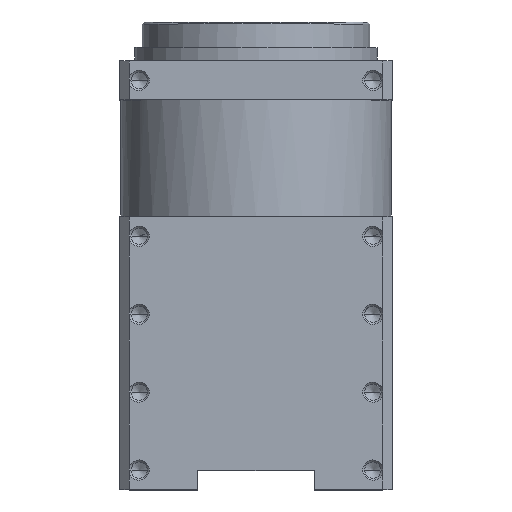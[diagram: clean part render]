
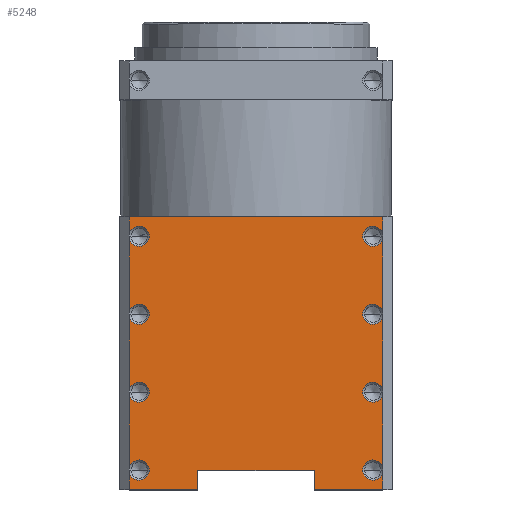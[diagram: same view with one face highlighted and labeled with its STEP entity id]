
A CAD part, top view. The second image highlights one B-rep face of the part: STEP entity #5248.
In plain terms, the highlighted planar face has unit normal (0, 0, 1).
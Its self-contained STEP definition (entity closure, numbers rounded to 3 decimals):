
#719=DIRECTION('',(1.,0.,0.));
#720=VECTOR('',#719,18.);
#721=CARTESIAN_POINT('',(-9.,-63.,21.));
#722=LINE('',#721,#720);
#723=DIRECTION('',(0.,1.,0.));
#724=VECTOR('',#723,3.);
#725=CARTESIAN_POINT('',(-9.,-66.,21.));
#726=LINE('',#725,#724);
#727=DIRECTION('',(0.,-1.,0.));
#728=VECTOR('',#727,2.609);
#729=CARTESIAN_POINT('',(-19.5,-63.391,21.));
#730=LINE('',#729,#728);
#731=CARTESIAN_POINT('',(-18.,-63.,21.));
#732=DIRECTION('',(0.,0.,1.));
#733=DIRECTION('',(-0.968,-0.252,0.));
#734=AXIS2_PLACEMENT_3D('',#731,#732,#733);
#736=CARTESIAN_POINT('',(-18.,-63.,21.));
#737=DIRECTION('',(0.,0.,1.));
#738=DIRECTION('',(1.,0.,0.));
#739=AXIS2_PLACEMENT_3D('',#736,#737,#738);
#741=DIRECTION('',(0.,-1.,0.));
#742=VECTOR('',#741,11.219);
#743=CARTESIAN_POINT('',(-19.5,-51.391,21.));
#744=LINE('',#743,#742);
#745=CARTESIAN_POINT('',(-18.,-51.,21.));
#746=DIRECTION('',(0.,0.,1.));
#747=DIRECTION('',(-0.968,-0.252,0.));
#748=AXIS2_PLACEMENT_3D('',#745,#746,#747);
#750=CARTESIAN_POINT('',(-18.,-51.,21.));
#751=DIRECTION('',(0.,0.,1.));
#752=DIRECTION('',(1.,0.,0.));
#753=AXIS2_PLACEMENT_3D('',#750,#751,#752);
#755=DIRECTION('',(0.,-1.,0.));
#756=VECTOR('',#755,11.219);
#757=CARTESIAN_POINT('',(-19.5,-39.391,21.));
#758=LINE('',#757,#756);
#759=CARTESIAN_POINT('',(-18.,-39.,21.));
#760=DIRECTION('',(0.,0.,1.));
#761=DIRECTION('',(-0.968,-0.252,0.));
#762=AXIS2_PLACEMENT_3D('',#759,#760,#761);
#764=CARTESIAN_POINT('',(-18.,-39.,21.));
#765=DIRECTION('',(0.,0.,1.));
#766=DIRECTION('',(1.,0.,0.));
#767=AXIS2_PLACEMENT_3D('',#764,#765,#766);
#769=DIRECTION('',(0.,-1.,0.));
#770=VECTOR('',#769,11.219);
#771=CARTESIAN_POINT('',(-19.5,-27.391,21.));
#772=LINE('',#771,#770);
#773=CARTESIAN_POINT('',(-18.,-27.,21.));
#774=DIRECTION('',(0.,0.,1.));
#775=DIRECTION('',(-0.968,-0.252,0.));
#776=AXIS2_PLACEMENT_3D('',#773,#774,#775);
#778=CARTESIAN_POINT('',(-18.,-27.,21.));
#779=DIRECTION('',(0.,0.,1.));
#780=DIRECTION('',(1.,0.,0.));
#781=AXIS2_PLACEMENT_3D('',#778,#779,#780);
#783=DIRECTION('',(0.,-1.,0.));
#784=VECTOR('',#783,2.609);
#785=CARTESIAN_POINT('',(-19.5,-24.,21.));
#786=LINE('',#785,#784);
#787=DIRECTION('',(1.,0.,0.));
#788=VECTOR('',#787,39.);
#789=CARTESIAN_POINT('',(-19.5,-24.,21.));
#790=LINE('',#789,#788);
#791=DIRECTION('',(0.,-1.,0.));
#792=VECTOR('',#791,2.609);
#793=CARTESIAN_POINT('',(19.5,-24.,21.));
#794=LINE('',#793,#792);
#795=CARTESIAN_POINT('',(18.,-27.,21.));
#796=DIRECTION('',(0.,0.,1.));
#797=DIRECTION('',(0.968,0.252,0.));
#798=AXIS2_PLACEMENT_3D('',#795,#796,#797);
#800=CARTESIAN_POINT('',(18.,-27.,21.));
#801=DIRECTION('',(0.,0.,1.));
#802=DIRECTION('',(-1.,0.,0.));
#803=AXIS2_PLACEMENT_3D('',#800,#801,#802);
#805=DIRECTION('',(0.,-1.,0.));
#806=VECTOR('',#805,11.219);
#807=CARTESIAN_POINT('',(19.5,-27.391,21.));
#808=LINE('',#807,#806);
#809=CARTESIAN_POINT('',(18.,-39.,21.));
#810=DIRECTION('',(0.,0.,1.));
#811=DIRECTION('',(0.968,0.252,0.));
#812=AXIS2_PLACEMENT_3D('',#809,#810,#811);
#814=CARTESIAN_POINT('',(18.,-39.,21.));
#815=DIRECTION('',(0.,0.,1.));
#816=DIRECTION('',(-1.,0.,0.));
#817=AXIS2_PLACEMENT_3D('',#814,#815,#816);
#819=DIRECTION('',(0.,-1.,0.));
#820=VECTOR('',#819,11.219);
#821=CARTESIAN_POINT('',(19.5,-39.391,21.));
#822=LINE('',#821,#820);
#823=CARTESIAN_POINT('',(18.,-51.,21.));
#824=DIRECTION('',(0.,0.,1.));
#825=DIRECTION('',(0.968,0.252,0.));
#826=AXIS2_PLACEMENT_3D('',#823,#824,#825);
#828=CARTESIAN_POINT('',(18.,-51.,21.));
#829=DIRECTION('',(0.,0.,1.));
#830=DIRECTION('',(-1.,0.,0.));
#831=AXIS2_PLACEMENT_3D('',#828,#829,#830);
#833=DIRECTION('',(0.,-1.,0.));
#834=VECTOR('',#833,11.219);
#835=CARTESIAN_POINT('',(19.5,-51.391,21.));
#836=LINE('',#835,#834);
#837=CARTESIAN_POINT('',(18.,-63.,21.));
#838=DIRECTION('',(0.,0.,1.));
#839=DIRECTION('',(0.968,0.252,0.));
#840=AXIS2_PLACEMENT_3D('',#837,#838,#839);
#842=CARTESIAN_POINT('',(18.,-63.,21.));
#843=DIRECTION('',(0.,0.,1.));
#844=DIRECTION('',(-1.,0.,0.));
#845=AXIS2_PLACEMENT_3D('',#842,#843,#844);
#847=DIRECTION('',(0.,-1.,0.));
#848=VECTOR('',#847,2.609);
#849=CARTESIAN_POINT('',(19.5,-63.391,21.));
#850=LINE('',#849,#848);
#851=DIRECTION('',(0.,1.,0.));
#852=VECTOR('',#851,3.);
#853=CARTESIAN_POINT('',(9.,-66.,21.));
#854=LINE('',#853,#852);
#1239=DIRECTION('',(1.,0.,0.));
#1240=VECTOR('',#1239,10.5);
#1241=CARTESIAN_POINT('',(-19.5,-66.,21.));
#1242=LINE('',#1241,#1240);
#1305=DIRECTION('',(1.,0.,0.));
#1306=VECTOR('',#1305,10.5);
#1307=CARTESIAN_POINT('',(9.,-66.,21.));
#1308=LINE('',#1307,#1306);
#3615=CARTESIAN_POINT('',(-19.5,-24.,21.));
#3616=CARTESIAN_POINT('',(19.5,-24.,21.));
#3617=VERTEX_POINT('',#3615);
#3618=VERTEX_POINT('',#3616);
#3648=CARTESIAN_POINT('',(19.5,-66.,21.));
#3650=VERTEX_POINT('',#3648);
#3655=CARTESIAN_POINT('',(-19.5,-66.,21.));
#3657=VERTEX_POINT('',#3655);
#4203=CARTESIAN_POINT('',(9.,-66.,21.));
#4205=VERTEX_POINT('',#4203);
#4207=CARTESIAN_POINT('',(-9.,-66.,21.));
#4209=VERTEX_POINT('',#4207);
#4231=CARTESIAN_POINT('',(-9.,-63.,21.));
#4232=CARTESIAN_POINT('',(9.,-63.,21.));
#4233=VERTEX_POINT('',#4231);
#4234=VERTEX_POINT('',#4232);
#4346=CARTESIAN_POINT('',(-19.5,-27.391,21.));
#4347=CARTESIAN_POINT('',(-16.45,-27.,21.));
#4348=VERTEX_POINT('',#4346);
#4349=VERTEX_POINT('',#4347);
#4350=CARTESIAN_POINT('',(-19.5,-26.609,21.));
#4351=VERTEX_POINT('',#4350);
#4353=CARTESIAN_POINT('',(-19.5,-39.391,21.));
#4354=CARTESIAN_POINT('',(-16.45,-39.,21.));
#4355=VERTEX_POINT('',#4353);
#4356=VERTEX_POINT('',#4354);
#4357=CARTESIAN_POINT('',(-19.5,-38.609,21.));
#4358=VERTEX_POINT('',#4357);
#4360=CARTESIAN_POINT('',(-19.5,-51.391,21.));
#4361=CARTESIAN_POINT('',(-16.45,-51.,21.));
#4362=VERTEX_POINT('',#4360);
#4363=VERTEX_POINT('',#4361);
#4364=CARTESIAN_POINT('',(-19.5,-50.609,21.));
#4365=VERTEX_POINT('',#4364);
#4367=CARTESIAN_POINT('',(-19.5,-63.391,21.));
#4368=CARTESIAN_POINT('',(-16.45,-63.,21.));
#4369=VERTEX_POINT('',#4367);
#4370=VERTEX_POINT('',#4368);
#4371=CARTESIAN_POINT('',(-19.5,-62.609,21.));
#4372=VERTEX_POINT('',#4371);
#4381=CARTESIAN_POINT('',(16.45,-27.,21.));
#4382=CARTESIAN_POINT('',(19.5,-27.391,21.));
#4383=VERTEX_POINT('',#4381);
#4384=VERTEX_POINT('',#4382);
#4385=CARTESIAN_POINT('',(19.5,-26.609,21.));
#4386=VERTEX_POINT('',#4385);
#4388=CARTESIAN_POINT('',(16.45,-39.,21.));
#4389=CARTESIAN_POINT('',(19.5,-39.391,21.));
#4390=VERTEX_POINT('',#4388);
#4391=VERTEX_POINT('',#4389);
#4392=CARTESIAN_POINT('',(19.5,-38.609,21.));
#4393=VERTEX_POINT('',#4392);
#4395=CARTESIAN_POINT('',(16.45,-51.,21.));
#4396=CARTESIAN_POINT('',(19.5,-51.391,21.));
#4397=VERTEX_POINT('',#4395);
#4398=VERTEX_POINT('',#4396);
#4399=CARTESIAN_POINT('',(19.5,-50.609,21.));
#4400=VERTEX_POINT('',#4399);
#4402=CARTESIAN_POINT('',(16.45,-63.,21.));
#4403=CARTESIAN_POINT('',(19.5,-63.391,21.));
#4404=VERTEX_POINT('',#4402);
#4405=VERTEX_POINT('',#4403);
#4406=CARTESIAN_POINT('',(19.5,-62.609,21.));
#4407=VERTEX_POINT('',#4406);
#5182=CARTESIAN_POINT('',(-21.,0.,21.));
#5183=DIRECTION('',(0.,0.,1.));
#5184=DIRECTION('',(1.,0.,0.));
#5185=AXIS2_PLACEMENT_3D('',#5182,#5183,#5184);
#5186=PLANE('',#5185);
#5188=ORIENTED_EDGE('',*,*,#5187,.F.);
#5190=ORIENTED_EDGE('',*,*,#5189,.F.);
#5192=ORIENTED_EDGE('',*,*,#5191,.F.);
#5193=ORIENTED_EDGE('',*,*,#5110,.F.);
#5195=ORIENTED_EDGE('',*,*,#5194,.T.);
#5197=ORIENTED_EDGE('',*,*,#5196,.T.);
#5198=ORIENTED_EDGE('',*,*,#5135,.F.);
#5200=ORIENTED_EDGE('',*,*,#5199,.T.);
#5202=ORIENTED_EDGE('',*,*,#5201,.T.);
#5203=ORIENTED_EDGE('',*,*,#5129,.F.);
#5205=ORIENTED_EDGE('',*,*,#5204,.T.);
#5207=ORIENTED_EDGE('',*,*,#5206,.T.);
#5208=ORIENTED_EDGE('',*,*,#5123,.F.);
#5210=ORIENTED_EDGE('',*,*,#5209,.T.);
#5212=ORIENTED_EDGE('',*,*,#5211,.T.);
#5213=ORIENTED_EDGE('',*,*,#5117,.F.);
#5215=ORIENTED_EDGE('',*,*,#5214,.T.);
#5217=ORIENTED_EDGE('',*,*,#5216,.T.);
#5219=ORIENTED_EDGE('',*,*,#5218,.T.);
#5221=ORIENTED_EDGE('',*,*,#5220,.T.);
#5223=ORIENTED_EDGE('',*,*,#5222,.T.);
#5225=ORIENTED_EDGE('',*,*,#5224,.T.);
#5227=ORIENTED_EDGE('',*,*,#5226,.T.);
#5229=ORIENTED_EDGE('',*,*,#5228,.T.);
#5231=ORIENTED_EDGE('',*,*,#5230,.T.);
#5233=ORIENTED_EDGE('',*,*,#5232,.T.);
#5235=ORIENTED_EDGE('',*,*,#5234,.T.);
#5237=ORIENTED_EDGE('',*,*,#5236,.T.);
#5239=ORIENTED_EDGE('',*,*,#5238,.T.);
#5241=ORIENTED_EDGE('',*,*,#5240,.T.);
#5243=ORIENTED_EDGE('',*,*,#5242,.F.);
#5245=ORIENTED_EDGE('',*,*,#5244,.T.);
#5246=EDGE_LOOP('',(#5188,#5190,#5192,#5193,#5195,#5197,#5198,#5200,#5202,#5203,
#5205,#5207,#5208,#5210,#5212,#5213,#5215,#5217,#5219,#5221,#5223,#5225,#5227,
#5229,#5231,#5233,#5235,#5237,#5239,#5241,#5243,#5245));
#5247=FACE_OUTER_BOUND('',#5246,.F.);
#5248=ADVANCED_FACE('',(#5247),#5186,.T.);
#735=CIRCLE('',#734,1.55);
#740=CIRCLE('',#739,1.55);
#749=CIRCLE('',#748,1.55);
#754=CIRCLE('',#753,1.55);
#763=CIRCLE('',#762,1.55);
#768=CIRCLE('',#767,1.55);
#777=CIRCLE('',#776,1.55);
#782=CIRCLE('',#781,1.55);
#799=CIRCLE('',#798,1.55);
#804=CIRCLE('',#803,1.55);
#813=CIRCLE('',#812,1.55);
#818=CIRCLE('',#817,1.55);
#827=CIRCLE('',#826,1.55);
#832=CIRCLE('',#831,1.55);
#841=CIRCLE('',#840,1.55);
#846=CIRCLE('',#845,1.55);
#5110=EDGE_CURVE('',#4369,#3657,#730,.T.);
#5117=EDGE_CURVE('',#3617,#4351,#786,.T.);
#5123=EDGE_CURVE('',#4348,#4358,#772,.T.);
#5129=EDGE_CURVE('',#4355,#4365,#758,.T.);
#5135=EDGE_CURVE('',#4362,#4372,#744,.T.);
#5187=EDGE_CURVE('',#4233,#4234,#722,.T.);
#5189=EDGE_CURVE('',#4209,#4233,#726,.T.);
#5191=EDGE_CURVE('',#3657,#4209,#1242,.T.);
#5194=EDGE_CURVE('',#4369,#4370,#735,.T.);
#5196=EDGE_CURVE('',#4370,#4372,#740,.T.);
#5199=EDGE_CURVE('',#4362,#4363,#749,.T.);
#5201=EDGE_CURVE('',#4363,#4365,#754,.T.);
#5204=EDGE_CURVE('',#4355,#4356,#763,.T.);
#5206=EDGE_CURVE('',#4356,#4358,#768,.T.);
#5209=EDGE_CURVE('',#4348,#4349,#777,.T.);
#5211=EDGE_CURVE('',#4349,#4351,#782,.T.);
#5214=EDGE_CURVE('',#3617,#3618,#790,.T.);
#5216=EDGE_CURVE('',#3618,#4386,#794,.T.);
#5218=EDGE_CURVE('',#4386,#4383,#799,.T.);
#5220=EDGE_CURVE('',#4383,#4384,#804,.T.);
#5222=EDGE_CURVE('',#4384,#4393,#808,.T.);
#5224=EDGE_CURVE('',#4393,#4390,#813,.T.);
#5226=EDGE_CURVE('',#4390,#4391,#818,.T.);
#5228=EDGE_CURVE('',#4391,#4400,#822,.T.);
#5230=EDGE_CURVE('',#4400,#4397,#827,.T.);
#5232=EDGE_CURVE('',#4397,#4398,#832,.T.);
#5234=EDGE_CURVE('',#4398,#4407,#836,.T.);
#5236=EDGE_CURVE('',#4407,#4404,#841,.T.);
#5238=EDGE_CURVE('',#4404,#4405,#846,.T.);
#5240=EDGE_CURVE('',#4405,#3650,#850,.T.);
#5242=EDGE_CURVE('',#4205,#3650,#1308,.T.);
#5244=EDGE_CURVE('',#4205,#4234,#854,.T.);
